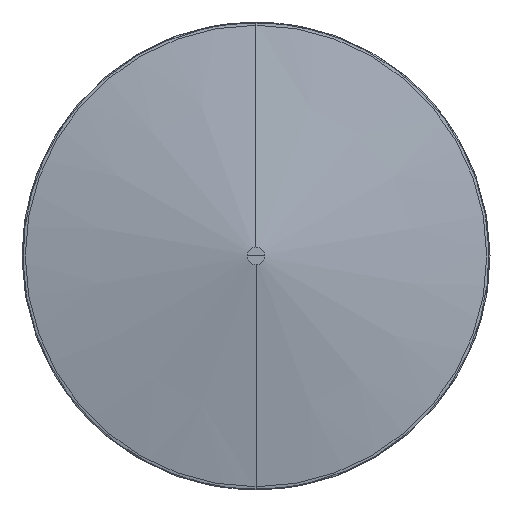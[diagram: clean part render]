
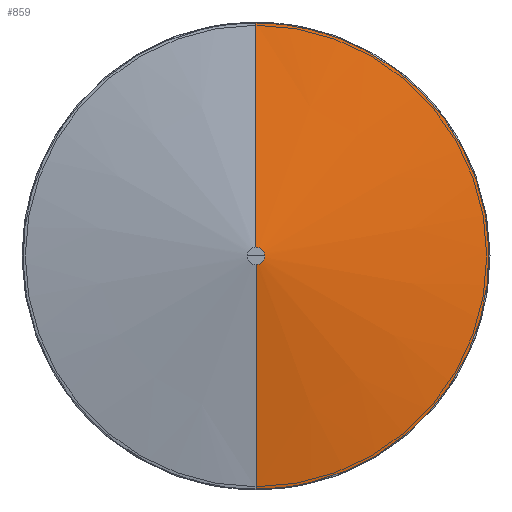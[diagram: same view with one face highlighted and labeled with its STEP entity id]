
A CAD part, top view. The second image highlights one B-rep face of the part: STEP entity #859.
In plain terms, the highlighted conical face has half-angle 79.72 degrees and reference radius 26.347 mm.
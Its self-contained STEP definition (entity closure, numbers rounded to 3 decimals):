
#48=B_SPLINE_CURVE_WITH_KNOTS('',3,(#1452,#1453,#1454,#1455),
 .UNSPECIFIED.,.F.,.F.,(4,4),(0.923,1.),.UNSPECIFIED.);
#49=B_SPLINE_CURVE_WITH_KNOTS('',3,(#1457,#1458,#1459,#1460,#1461,#1462,
#1463,#1464,#1465,#1466,#1467,#1468,#1469,#1470),.UNSPECIFIED.,.F.,.F.,
(4,1,1,1,1,1,1,1,1,1,1,4),(0.077,0.154,0.231,
0.308,0.385,0.462,0.538,
0.615,0.692,0.769,0.846,
0.923),.UNSPECIFIED.);
#50=B_SPLINE_CURVE_WITH_KNOTS('',3,(#1472,#1473,#1474,#1475),
 .UNSPECIFIED.,.F.,.F.,(4,4),(0.,0.077),.UNSPECIFIED.);
#71=CONICAL_SURFACE('',#951,26.347,1.391);
#131=FACE_OUTER_BOUND('',#196,.T.);
#196=EDGE_LOOP('',(#646,#647,#648,#649,#650,#651));
#262=CIRCLE('',#952,7.147);
#306=LINE('',#1555,#354);
#307=LINE('',#1558,#355);
#354=VECTOR('',#1131,304.8);
#355=VECTOR('',#1134,304.8);
#404=VERTEX_POINT('',#1398);
#405=VERTEX_POINT('',#1451);
#406=VERTEX_POINT('',#1456);
#407=VERTEX_POINT('',#1471);
#410=VERTEX_POINT('',#1554);
#411=VERTEX_POINT('',#1556);
#487=EDGE_CURVE('',#405,#404,#48,.T.);
#488=EDGE_CURVE('',#406,#405,#49,.T.);
#489=EDGE_CURVE('',#407,#406,#50,.T.);
#494=EDGE_CURVE('',#410,#404,#306,.T.);
#495=EDGE_CURVE('',#411,#410,#262,.T.);
#496=EDGE_CURVE('',#407,#411,#307,.T.);
#646=ORIENTED_EDGE('',*,*,#489,.T.);
#647=ORIENTED_EDGE('',*,*,#488,.T.);
#648=ORIENTED_EDGE('',*,*,#487,.T.);
#649=ORIENTED_EDGE('',*,*,#494,.F.);
#650=ORIENTED_EDGE('',*,*,#495,.F.);
#651=ORIENTED_EDGE('',*,*,#496,.F.);
#859=ADVANCED_FACE('',(#131),#71,.T.);
#951=AXIS2_PLACEMENT_3D('',#1553,#1129,#1130);
#952=AXIS2_PLACEMENT_3D('',#1557,#1132,#1133);
#1129=DIRECTION('center_axis',(0.,0.,
-1.));
#1130=DIRECTION('ref_axis',(1.,0.,0.));
#1131=DIRECTION('',(0.,0.984,-0.178));
#1132=DIRECTION('center_axis',(0.,0.,1.));
#1133=DIRECTION('ref_axis',(-0.588,-0.809,0.));
#1134=DIRECTION('',(0.,0.984,0.178));
#1398=CARTESIAN_POINT('',(0.,199.149,-34.824));
#1451=CARTESIAN_POINT('',(47.659,193.362,-34.824));
#1452=CARTESIAN_POINT('Ctrl Pts',(47.659,193.362,-34.824));
#1453=CARTESIAN_POINT('Ctrl Pts',(32.086,197.212,-34.824));
#1454=CARTESIAN_POINT('Ctrl Pts',(16.052,199.189,-34.824));
#1455=CARTESIAN_POINT('Ctrl Pts',(0.,199.149,
-34.824));
#1456=CARTESIAN_POINT('',(47.659,-193.362,-34.824));
#1457=CARTESIAN_POINT('Ctrl Pts',(47.659,-193.362,-34.824));
#1458=CARTESIAN_POINT('Ctrl Pts',(63.233,-189.513,-34.824));
#1459=CARTESIAN_POINT('Ctrl Pts',(93.456,-178.067,-34.824));
#1460=CARTESIAN_POINT('Ctrl Pts',(133.352,-150.522,-34.824));
#1461=CARTESIAN_POINT('Ctrl Pts',(165.5,-114.236,-34.824));
#1462=CARTESIAN_POINT('Ctrl Pts',(188.029,-71.31,-34.824));
#1463=CARTESIAN_POINT('Ctrl Pts',(199.631,-24.24,-34.824));
#1464=CARTESIAN_POINT('Ctrl Pts',(199.631,24.24,-34.824));
#1465=CARTESIAN_POINT('Ctrl Pts',(188.029,71.31,-34.824));
#1466=CARTESIAN_POINT('Ctrl Pts',(165.5,114.236,-34.824));
#1467=CARTESIAN_POINT('Ctrl Pts',(133.352,150.522,-34.824));
#1468=CARTESIAN_POINT('Ctrl Pts',(93.456,178.067,-34.824));
#1469=CARTESIAN_POINT('Ctrl Pts',(63.233,189.513,-34.824));
#1470=CARTESIAN_POINT('Ctrl Pts',(47.659,193.362,-34.824));
#1471=CARTESIAN_POINT('',(0.,-199.149,-34.824));
#1472=CARTESIAN_POINT('Ctrl Pts',(0.,-199.149,
-34.824));
#1473=CARTESIAN_POINT('Ctrl Pts',(16.052,-199.189,-34.824));
#1474=CARTESIAN_POINT('Ctrl Pts',(32.086,-197.212,-34.824));
#1475=CARTESIAN_POINT('Ctrl Pts',(47.659,-193.362,-34.824));
#1553=CARTESIAN_POINT('Origin',(0.,0.,
-3.482));
#1554=CARTESIAN_POINT('',(0.,7.147,0.));
#1555=CARTESIAN_POINT('',(0.,7.147,0.));
#1556=CARTESIAN_POINT('',(0.,-7.147,0.));
#1557=CARTESIAN_POINT('Origin',(0.,0.,
0.));
#1558=CARTESIAN_POINT('',(0.,-199.149,-34.824));
